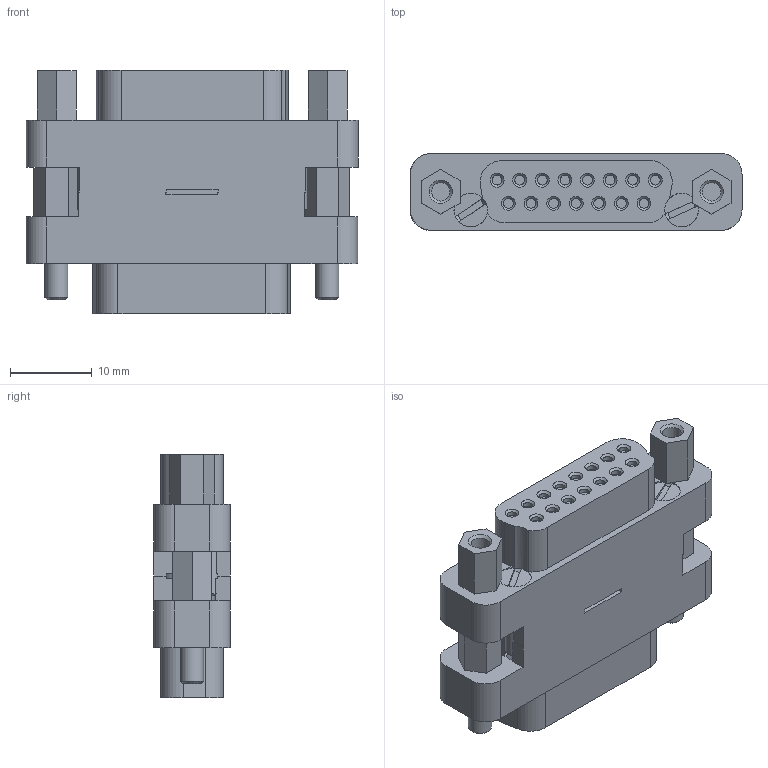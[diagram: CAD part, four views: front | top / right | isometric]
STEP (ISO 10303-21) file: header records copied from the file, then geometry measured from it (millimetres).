
FILE_DESCRIPTION(/* description */ ('Alibre Inc.'),/* implementation_level */ '2;1');
FILE_NAME(/* name */ 'export0',/* time_stamp */ '2014-11-17T13:40:07-08:00',/* author */ (''),/* organization */ (''),/* preprocessor_version */ 'ST-DEVELOPER v14',/* originating_system */ 'Alibre',/* authorisation */ '');
FILE_SCHEMA (('CONFIG_CONTROL_DESIGN'));
Length unit declared in the file: centimetre
Products named in the file (1): ID_1
Bounding box: 40.68 x 9.4 x 29.87 mm (x, y, z)
Volume: 8354.3 mm3; surface area: 4907.5 mm2
Topology: 1 solids, 1 shells, 316 faces, 782 edges, 508 vertices
Faces by surface type: plane 158, cylinder 91, cone 67
Full cylindrical faces by diameter (mm): 0.838 x2, 1.194 x30, 1.778 x2, 1.93 x15, 2.261 x4, 2.286 x2, 2.362 x2, 2.845 x4, 2.946 x4, 4.115 x2
Entity records: 8155 total; most frequent: CARTESIAN_POINT 1638, ORIENTED_EDGE 1228, DIRECTION 1206, EDGE_CURVE 614, AXIS2_PLACEMENT_3D 504, EDGE_LOOP 492, FACE_BOUND 492, VERTEX_POINT 458
